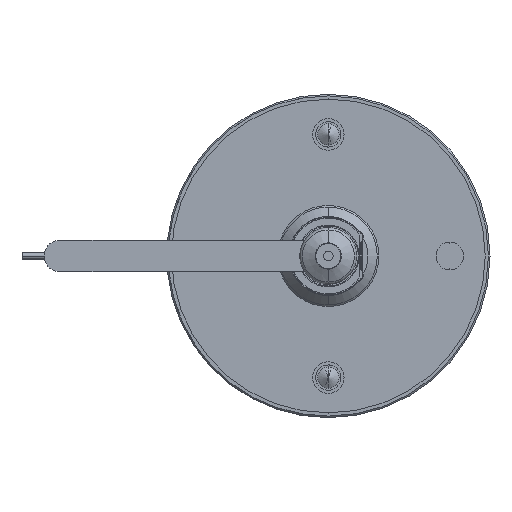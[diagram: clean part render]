
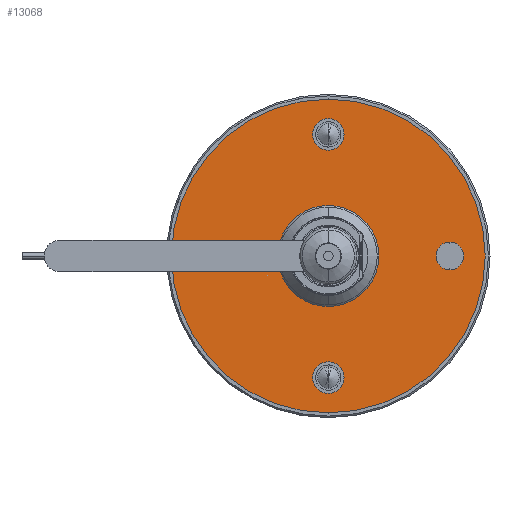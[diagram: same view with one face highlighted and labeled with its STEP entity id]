
A CAD part, front view. The second image highlights one B-rep face of the part: STEP entity #13068.
In plain terms, the highlighted planar face has unit normal (0, -1, 0) as drawn and (0, 0, -1) by its records, which use the part's own axes.
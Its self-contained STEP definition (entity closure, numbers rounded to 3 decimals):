
#472 = CIRCLE ( 'NONE', #10476, 4.4 ) ;
#480 = AXIS2_PLACEMENT_3D ( 'NONE', #10246, #12593, #18431 ) ;
#897 = CIRCLE ( 'NONE', #22956, 49.675 ) ;
#1039 = EDGE_CURVE ( 'NONE', #2147, #8279, #6043, .T. ) ;
#1364 = DIRECTION ( 'NONE',  ( 0., 0., 1. ) ) ;
#1369 = EDGE_CURVE ( 'NONE', #14330, #23343, #472, .T. ) ;
#1573 = CIRCLE ( 'NONE', #22407, 4.4 ) ;
#1707 = EDGE_LOOP ( 'NONE', ( #8366, #5795 ) ) ;
#1732 = VERTEX_POINT ( 'NONE', #6059 ) ;
#1959 = EDGE_LOOP ( 'NONE', ( #21386, #23283 ) ) ;
#2147 = VERTEX_POINT ( 'NONE', #21269 ) ;
#2214 = ORIENTED_EDGE ( 'NONE', *, *, #16676, .T. ) ;
#2287 = FACE_BOUND ( 'NONE', #3591, .T. ) ;
#2542 = PLANE ( 'NONE',  #480 ) ;
#2810 = DIRECTION ( 'NONE',  ( 0., 0., 1. ) ) ;
#2951 = CARTESIAN_POINT ( 'NONE',  ( -38.5, 0., 0. ) ) ;
#3002 = AXIS2_PLACEMENT_3D ( 'NONE', #21382, #17452, #19816 ) ;
#3086 = DIRECTION ( 'NONE',  ( -1., 0., 0. ) ) ;
#3157 = CARTESIAN_POINT ( 'NONE',  ( 0., 0., 0. ) ) ;
#3163 = CARTESIAN_POINT ( 'NONE',  ( 33.5, 0., 0. ) ) ;
#3305 = DIRECTION ( 'NONE',  ( 0., 0., 1. ) ) ;
#3505 = EDGE_CURVE ( 'NONE', #8279, #2147, #16786, .T. ) ;
#3591 = EDGE_LOOP ( 'NONE', ( #16949, #9774 ) ) ;
#3701 = CARTESIAN_POINT ( 'NONE',  ( 49.675, 0., 0. ) ) ;
#3782 = CARTESIAN_POINT ( 'NONE',  ( -4.4, 38.5, 0. ) ) ;
#4237 = EDGE_CURVE ( 'NONE', #20172, #13129, #17134, .T. ) ;
#4365 = FACE_BOUND ( 'NONE', #10792, .T. ) ;
#4457 = ORIENTED_EDGE ( 'NONE', *, *, #6132, .T. ) ;
#4547 = EDGE_CURVE ( 'NONE', #18910, #21324, #897, .T. ) ;
#5120 = DIRECTION ( 'NONE',  ( -1., 0., 0. ) ) ;
#5425 = DIRECTION ( 'NONE',  ( -1., 0., 0. ) ) ;
#5758 = CARTESIAN_POINT ( 'NONE',  ( 38.5, 0., 0. ) ) ;
#5795 = ORIENTED_EDGE ( 'NONE', *, *, #1369, .T. ) ;
#5882 = AXIS2_PLACEMENT_3D ( 'NONE', #7220, #23118, #5120 ) ;
#6043 = CIRCLE ( 'NONE', #6891, 5. ) ;
#6059 = CARTESIAN_POINT ( 'NONE',  ( -10.5, 0., 0. ) ) ;
#6132 = EDGE_CURVE ( 'NONE', #21324, #18910, #11452, .T. ) ;
#6465 = VERTEX_POINT ( 'NONE', #10917 ) ;
#6660 = ORIENTED_EDGE ( 'NONE', *, *, #4237, .T. ) ;
#6891 = AXIS2_PLACEMENT_3D ( 'NONE', #2951, #15082, #3086 ) ;
#7220 = CARTESIAN_POINT ( 'NONE',  ( 0., -38.5, 0. ) ) ;
#7386 = ORIENTED_EDGE ( 'NONE', *, *, #4547, .T. ) ;
#7698 = AXIS2_PLACEMENT_3D ( 'NONE', #3157, #12479, #17228 ) ;
#8279 = VERTEX_POINT ( 'NONE', #24573 ) ;
#8366 = ORIENTED_EDGE ( 'NONE', *, *, #22569, .T. ) ;
#8529 = FACE_OUTER_BOUND ( 'NONE', #14229, .T. ) ;
#8938 = CARTESIAN_POINT ( 'NONE',  ( 0., 0., 0. ) ) ;
#9363 = AXIS2_PLACEMENT_3D ( 'NONE', #22797, #16287, #12648 ) ;
#9774 = ORIENTED_EDGE ( 'NONE', *, *, #21123, .T. ) ;
#9819 = CARTESIAN_POINT ( 'NONE',  ( 0., 0., 0. ) ) ;
#9848 = AXIS2_PLACEMENT_3D ( 'NONE', #5758, #3305, #13756 ) ;
#9885 = CARTESIAN_POINT ( 'NONE',  ( 0., 38.5, 0. ) ) ;
#10051 = ORIENTED_EDGE ( 'NONE', *, *, #1039, .T. ) ;
#10246 = CARTESIAN_POINT ( 'NONE',  ( 10.5, 0., 0. ) ) ;
#10476 = AXIS2_PLACEMENT_3D ( 'NONE', #9885, #19791, #5425 ) ;
#10784 = DIRECTION ( 'NONE',  ( 1., 0., 0. ) ) ;
#10792 = EDGE_LOOP ( 'NONE', ( #2214, #6660 ) ) ;
#10917 = CARTESIAN_POINT ( 'NONE',  ( 10.5, 0., 0. ) ) ;
#11005 = EDGE_CURVE ( 'NONE', #20491, #25571, #19667, .T. ) ;
#11130 = CARTESIAN_POINT ( 'NONE',  ( 0., -38.5, 0. ) ) ;
#11452 = CIRCLE ( 'NONE', #7698, 49.675 ) ;
#11940 = CIRCLE ( 'NONE', #9848, 5. ) ;
#12337 = FACE_BOUND ( 'NONE', #15209, .T. ) ;
#12453 = CIRCLE ( 'NONE', #20741, 10.5 ) ;
#12466 = FACE_BOUND ( 'NONE', #1959, .T. ) ;
#12479 = DIRECTION ( 'NONE',  ( 0., 0., -1. ) ) ;
#12593 = DIRECTION ( 'NONE',  ( 0., 0., -1. ) ) ;
#12648 = DIRECTION ( 'NONE',  ( -1., 0., 0. ) ) ;
#13068 = ADVANCED_FACE ( 'NONE', ( #8529, #4365, #20151, #12466, #12337, #2287 ), #2542, .T. ) ;
#13129 = VERTEX_POINT ( 'NONE', #13248 ) ;
#13248 = CARTESIAN_POINT ( 'NONE',  ( -4.4, -38.5, 0. ) ) ;
#13756 = DIRECTION ( 'NONE',  ( -1., 0., 0. ) ) ;
#14229 = EDGE_LOOP ( 'NONE', ( #7386, #4457 ) ) ;
#14330 = VERTEX_POINT ( 'NONE', #25689 ) ;
#15082 = DIRECTION ( 'NONE',  ( 0., 0., 1. ) ) ;
#15209 = EDGE_LOOP ( 'NONE', ( #20080, #10051 ) ) ;
#16287 = DIRECTION ( 'NONE',  ( 0., 0., 1. ) ) ;
#16676 = EDGE_CURVE ( 'NONE', #13129, #20172, #1573, .T. ) ;
#16786 = CIRCLE ( 'NONE', #22624, 5. ) ;
#16949 = ORIENTED_EDGE ( 'NONE', *, *, #25625, .T. ) ;
#16978 = DIRECTION ( 'NONE',  ( 0., 0., 1. ) ) ;
#17134 = CIRCLE ( 'NONE', #5882, 4.4 ) ;
#17228 = DIRECTION ( 'NONE',  ( -1., 0., 0. ) ) ;
#17452 = DIRECTION ( 'NONE',  ( 0., 0., 1. ) ) ;
#17761 = DIRECTION ( 'NONE',  ( 0., 0., -1. ) ) ;
#17779 = CARTESIAN_POINT ( 'NONE',  ( -49.675, 0., 0. ) ) ;
#18431 = DIRECTION ( 'NONE',  ( -1., 0., 0. ) ) ;
#18460 = DIRECTION ( 'NONE',  ( 1., 0., 0. ) ) ;
#18910 = VERTEX_POINT ( 'NONE', #3701 ) ;
#18963 = AXIS2_PLACEMENT_3D ( 'NONE', #20671, #2810, #10784 ) ;
#19101 = CARTESIAN_POINT ( 'NONE',  ( 4.4, -38.5, 0. ) ) ;
#19364 = CIRCLE ( 'NONE', #9363, 4.4 ) ;
#19478 = DIRECTION ( 'NONE',  ( -1., 0., 0. ) ) ;
#19667 = CIRCLE ( 'NONE', #3002, 5. ) ;
#19791 = DIRECTION ( 'NONE',  ( 0., 0., 1. ) ) ;
#19816 = DIRECTION ( 'NONE',  ( -1., 0., 0. ) ) ;
#20080 = ORIENTED_EDGE ( 'NONE', *, *, #3505, .T. ) ;
#20151 = FACE_BOUND ( 'NONE', #1707, .T. ) ;
#20172 = VERTEX_POINT ( 'NONE', #19101 ) ;
#20302 = CARTESIAN_POINT ( 'NONE',  ( 43.5, 0., 0. ) ) ;
#20491 = VERTEX_POINT ( 'NONE', #3163 ) ;
#20671 = CARTESIAN_POINT ( 'NONE',  ( 0., 0., 0. ) ) ;
#20678 = DIRECTION ( 'NONE',  ( 0., 0., 1. ) ) ;
#20741 = AXIS2_PLACEMENT_3D ( 'NONE', #8938, #20678, #18460 ) ;
#21123 = EDGE_CURVE ( 'NONE', #1732, #6465, #24025, .T. ) ;
#21269 = CARTESIAN_POINT ( 'NONE',  ( -33.5, 0., 0. ) ) ;
#21324 = VERTEX_POINT ( 'NONE', #17779 ) ;
#21382 = CARTESIAN_POINT ( 'NONE',  ( 38.5, 0., 0. ) ) ;
#21386 = ORIENTED_EDGE ( 'NONE', *, *, #11005, .T. ) ;
#22407 = AXIS2_PLACEMENT_3D ( 'NONE', #11130, #16978, #22978 ) ;
#22569 = EDGE_CURVE ( 'NONE', #23343, #14330, #19364, .T. ) ;
#22624 = AXIS2_PLACEMENT_3D ( 'NONE', #25357, #1364, #25093 ) ;
#22797 = CARTESIAN_POINT ( 'NONE',  ( 0., 38.5, 0. ) ) ;
#22956 = AXIS2_PLACEMENT_3D ( 'NONE', #9819, #17761, #19478 ) ;
#22978 = DIRECTION ( 'NONE',  ( -1., 0., 0. ) ) ;
#23036 = EDGE_CURVE ( 'NONE', #25571, #20491, #11940, .T. ) ;
#23118 = DIRECTION ( 'NONE',  ( 0., 0., 1. ) ) ;
#23283 = ORIENTED_EDGE ( 'NONE', *, *, #23036, .T. ) ;
#23343 = VERTEX_POINT ( 'NONE', #3782 ) ;
#24025 = CIRCLE ( 'NONE', #18963, 10.5 ) ;
#24573 = CARTESIAN_POINT ( 'NONE',  ( -43.5, 0., 0. ) ) ;
#25093 = DIRECTION ( 'NONE',  ( -1., 0., 0. ) ) ;
#25357 = CARTESIAN_POINT ( 'NONE',  ( -38.5, 0., 0. ) ) ;
#25571 = VERTEX_POINT ( 'NONE', #20302 ) ;
#25625 = EDGE_CURVE ( 'NONE', #6465, #1732, #12453, .T. ) ;
#25689 = CARTESIAN_POINT ( 'NONE',  ( 4.4, 38.5, 0. ) ) ;
